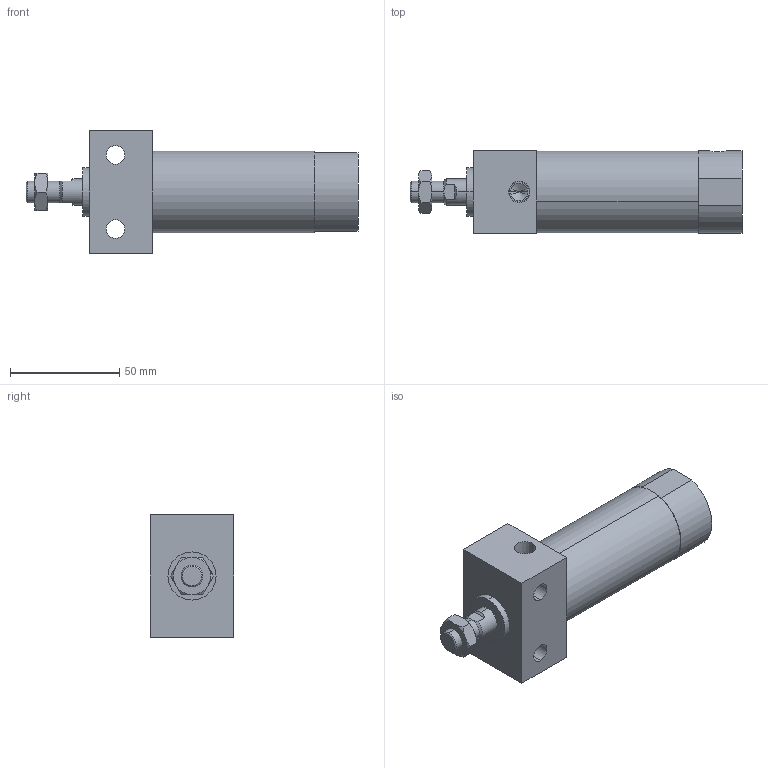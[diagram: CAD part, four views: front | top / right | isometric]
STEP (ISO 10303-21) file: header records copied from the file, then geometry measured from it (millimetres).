
FILE_DESCRIPTION (( 'STEP AP203' ), '1' );
FILE_NAME ('JGES2-32-25.STEP', '2016-04-20T07:06:51', ( '' ), ( '' ), 'SwSTEP 2.0', 'SolidWorks 2014', '' );
FILE_SCHEMA (( 'CONFIG_CONTROL_DESIGN' ));
Length unit declared in the file: millimetre
Products named in the file (5): JGES2-32B; JGES2-32A; 32-25; M10x1.5-6mm; JGES2-32-25
Assembly tree (4 placements, depth 2):
  JGES2-32-25
    JGES2-32B
    32-25
    JGES2-32A
    M10x1.5-6mm
Bounding box: 152 x 38 x 56 mm (x, y, z)
Volume: 162259.6 mm3; surface area: 30356.4 mm2
Topology: 4 solids, 4 shells, 85 faces, 186 edges, 113 vertices
Faces by surface type: plane 31, cylinder 26, cone 16, torus 12
Entity records: 2991 total; most frequent: CARTESIAN_POINT 623, DIRECTION 410, ORIENTED_EDGE 360, EDGE_CURVE 180, AXIS2_PLACEMENT_3D 170, VERTEX_POINT 113, EDGE_LOOP 101, ADVANCED_FACE 85
